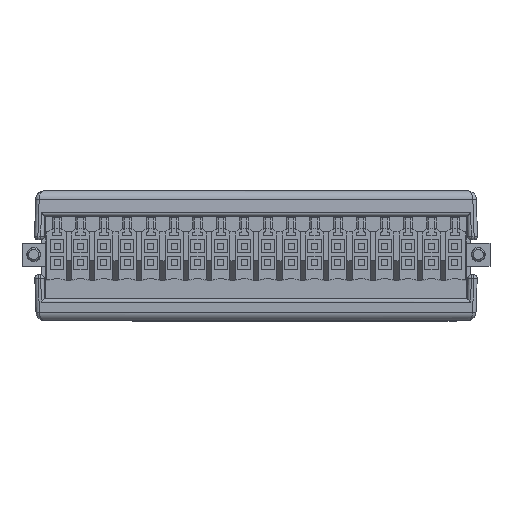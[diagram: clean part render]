
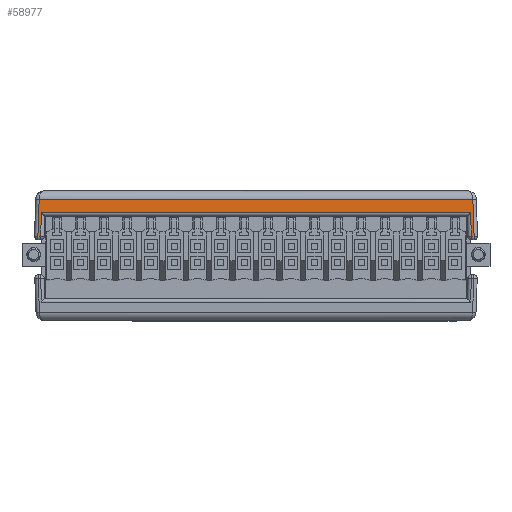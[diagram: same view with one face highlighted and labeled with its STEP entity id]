
A CAD part, top view. The second image highlights one B-rep face of the part: STEP entity #58977.
In plain terms, the highlighted planar face has unit normal (0, 0.035, 0.999).
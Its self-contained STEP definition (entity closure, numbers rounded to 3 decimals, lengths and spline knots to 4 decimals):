
#5382=DIRECTION('',(1.,0.,0.));
#5383=VECTOR('',#5382,2.5538);
#5384=CARTESIAN_POINT('',(-0.0369,0.6507,
0.5019));
#5385=LINE('',#5384,#5383);
#5386=DIRECTION('',(-0.035,0.999,-0.035));
#5387=VECTOR('',#5386,0.2183);
#5388=CARTESIAN_POINT('',(2.5245,0.4327,
0.5096));
#5389=LINE('',#5388,#5387);
#5390=DIRECTION('',(-1.,0.,0.));
#5391=VECTOR('',#5390,0.0174);
#5392=CARTESIAN_POINT('',(2.5245,0.4327,
0.5096));
#5393=LINE('',#5392,#5391);
#5394=DIRECTION('',(-0.017,0.999,-0.035));
#5395=VECTOR('',#5394,0.1371);
#5396=CARTESIAN_POINT('',(2.5072,0.4327,
0.5096));
#5397=LINE('',#5396,#5395);
#5398=DIRECTION('',(-1.,0.,0.));
#5399=VECTOR('',#5398,2.5295);
#5400=CARTESIAN_POINT('',(2.5048,0.5697,
0.5048));
#5401=LINE('',#5400,#5399);
#5402=DIRECTION('',(0.017,0.999,-0.035));
#5403=VECTOR('',#5402,0.1371);
#5404=CARTESIAN_POINT('',(-0.0272,0.4327,
0.5096));
#5405=LINE('',#5404,#5403);
#5406=DIRECTION('',(-1.,0.,0.));
#5407=VECTOR('',#5406,0.0174);
#5408=CARTESIAN_POINT('',(-0.0272,0.4327,
0.5096));
#5409=LINE('',#5408,#5407);
#5410=DIRECTION('',(-0.035,-0.999,0.035));
#5411=VECTOR('',#5410,0.2183);
#5412=CARTESIAN_POINT('',(-0.0369,0.6507,
0.5019));
#5413=LINE('',#5412,#5411);
#47317=CARTESIAN_POINT('',(-0.0369,0.6507,
0.5019));
#47318=CARTESIAN_POINT('',(2.5169,0.6507,
0.502));
#47319=VERTEX_POINT('',#47317);
#47320=VERTEX_POINT('',#47318);
#47363=CARTESIAN_POINT('',(-0.0445,0.4327,
0.5096));
#47364=VERTEX_POINT('',#47363);
#47367=CARTESIAN_POINT('',(2.5245,0.4327,
0.5096));
#47368=VERTEX_POINT('',#47367);
#49072=CARTESIAN_POINT('',(2.5072,0.4327,
0.5096));
#49073=VERTEX_POINT('',#49072);
#49082=CARTESIAN_POINT('',(2.5048,0.5697,
0.5048));
#49083=VERTEX_POINT('',#49082);
#49090=CARTESIAN_POINT('',(-0.0272,0.4327,
0.5096));
#49091=CARTESIAN_POINT('',(-0.0248,0.5697,
0.5048));
#49092=VERTEX_POINT('',#49090);
#49093=VERTEX_POINT('',#49091);
#58956=CARTESIAN_POINT('',(-0.1065,0.549,0.5055));
#58957=DIRECTION('',(0.,-0.035,-0.999));
#58958=DIRECTION('',(-1.,0.,0.));
#58959=AXIS2_PLACEMENT_3D('',#58956,#58957,#58958);
#58960=PLANE('',#58959);
#58961=ORIENTED_EDGE('',*,*,#58947,.T.);
#58963=ORIENTED_EDGE('',*,*,#58962,.F.);
#58965=ORIENTED_EDGE('',*,*,#58964,.T.);
#58967=ORIENTED_EDGE('',*,*,#58966,.T.);
#58969=ORIENTED_EDGE('',*,*,#58968,.T.);
#58971=ORIENTED_EDGE('',*,*,#58970,.F.);
#58973=ORIENTED_EDGE('',*,*,#58972,.T.);
#58974=ORIENTED_EDGE('',*,*,#58887,.F.);
#58975=EDGE_LOOP('',(#58961,#58963,#58965,#58967,#58969,#58971,#58973,#58974));
#58976=FACE_OUTER_BOUND('',#58975,.F.);
#58977=ADVANCED_FACE('',(#58976),#58960,.F.);
#58887=EDGE_CURVE('',#47319,#47364,#5413,.T.);
#58947=EDGE_CURVE('',#47319,#47320,#5385,.T.);
#58962=EDGE_CURVE('',#47368,#47320,#5389,.T.);
#58964=EDGE_CURVE('',#47368,#49073,#5393,.T.);
#58966=EDGE_CURVE('',#49073,#49083,#5397,.T.);
#58968=EDGE_CURVE('',#49083,#49093,#5401,.T.);
#58970=EDGE_CURVE('',#49092,#49093,#5405,.T.);
#58972=EDGE_CURVE('',#49092,#47364,#5409,.T.);
